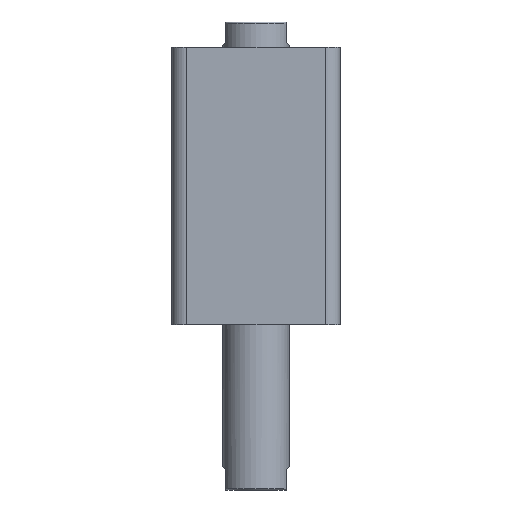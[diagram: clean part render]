
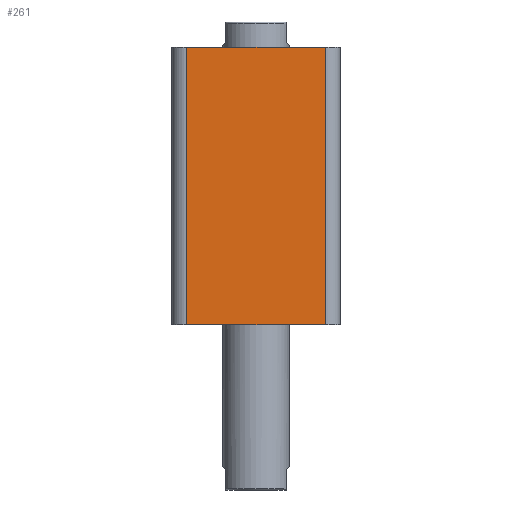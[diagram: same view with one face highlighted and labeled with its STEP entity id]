
A CAD part, front view. The second image highlights one B-rep face of the part: STEP entity #261.
In plain terms, the highlighted planar face has unit normal (0, -1, 0).
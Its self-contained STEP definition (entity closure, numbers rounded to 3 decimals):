
#261 = ADVANCED_FACE ( 'NONE', ( #2099 ), #960, .F. ) ;
#411 = EDGE_CURVE ( 'NONE', #1543, #1589, #2279, .T. ) ;
#412 = EDGE_CURVE ( 'NONE', #1543, #1544, #2280, .T. ) ;
#413 = EDGE_CURVE ( 'NONE', #1546, #1544, #2283, .T. ) ;
#414 = EDGE_CURVE ( 'NONE', #1589, #1546, #2285, .T. ) ;
#585 = AXIS2_PLACEMENT_3D ( 'NONE', #956, #961, #962 ) ;
#956 = CARTESIAN_POINT ( 'NONE',  ( -57., -57., 188. ) ) ;
#960 = PLANE ( 'NONE',  #585 ) ;
#961 = DIRECTION ( 'NONE',  ( 0., 1., 0. ) ) ;
#962 = DIRECTION ( 'NONE',  ( 0., 0., 1. ) ) ;
#1507 = ORIENTED_EDGE ( 'NONE', *, *, #413, .T. ) ;
#1508 = ORIENTED_EDGE ( 'NONE', *, *, #412, .F. ) ;
#1509 = ORIENTED_EDGE ( 'NONE', *, *, #411, .T. ) ;
#1526 = ORIENTED_EDGE ( 'NONE', *, *, #414, .T. ) ;
#1543 = VERTEX_POINT ( 'NONE', #3009 ) ;
#1544 = VERTEX_POINT ( 'NONE', #3005 ) ;
#1546 = VERTEX_POINT ( 'NONE', #3006 ) ;
#1589 = VERTEX_POINT ( 'NONE', #3017 ) ;
#1827 = EDGE_LOOP ( 'NONE', ( #1526, #1507, #1508, #1509 ) ) ;
#2099 = FACE_OUTER_BOUND ( 'NONE', #1827, .T. ) ;
#2279 = LINE ( 'NONE', #2731, #2282 ) ;
#2280 = LINE ( 'NONE', #2730, #2284 ) ;
#2282 = VECTOR ( 'NONE', #2713, 1000. ) ;
#2283 = LINE ( 'NONE', #2736, #2286 ) ;
#2284 = VECTOR ( 'NONE', #2735, 1000. ) ;
#2285 = LINE ( 'NONE', #2738, #2288 ) ;
#2286 = VECTOR ( 'NONE', #2737, 1000. ) ;
#2288 = VECTOR ( 'NONE', #2739, 1000. ) ;
#2713 = DIRECTION ( 'NONE',  ( 0., 0., -1. ) ) ;
#2730 = CARTESIAN_POINT ( 'NONE',  ( -57., -57., 188. ) ) ;
#2731 = CARTESIAN_POINT ( 'NONE',  ( -47., -57., 188. ) ) ;
#2735 = DIRECTION ( 'NONE',  ( 1., 0., 0. ) ) ;
#2736 = CARTESIAN_POINT ( 'NONE',  ( 47., -57., 188. ) ) ;
#2737 = DIRECTION ( 'NONE',  ( 0., 0., 1. ) ) ;
#2738 = CARTESIAN_POINT ( 'NONE',  ( -57., -57., 0. ) ) ;
#2739 = DIRECTION ( 'NONE',  ( 1., 0., 0. ) ) ;
#3005 = CARTESIAN_POINT ( 'NONE',  ( 47., -57., 188. ) ) ;
#3006 = CARTESIAN_POINT ( 'NONE',  ( 47., -57., 0. ) ) ;
#3009 = CARTESIAN_POINT ( 'NONE',  ( -47., -57., 188. ) ) ;
#3017 = CARTESIAN_POINT ( 'NONE',  ( -47., -57., 0. ) ) ;
